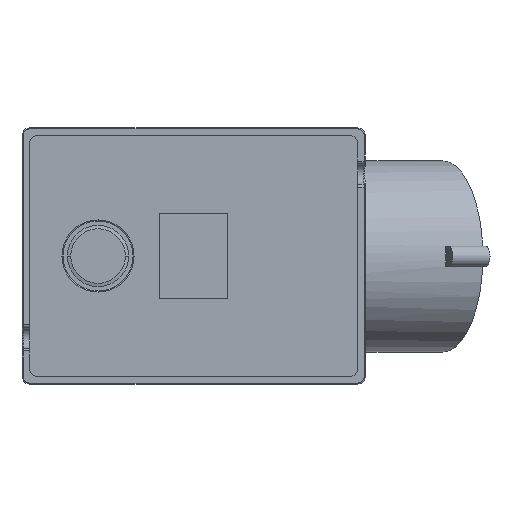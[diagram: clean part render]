
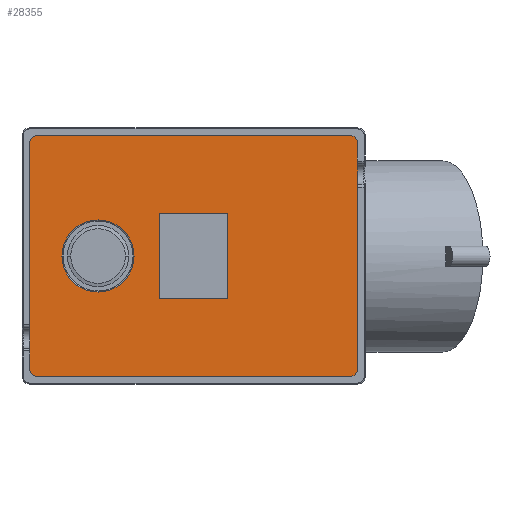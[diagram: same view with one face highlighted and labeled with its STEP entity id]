
A CAD part, top view. The second image highlights one B-rep face of the part: STEP entity #28355.
In plain terms, the highlighted planar face has unit normal (0, 0, 1).
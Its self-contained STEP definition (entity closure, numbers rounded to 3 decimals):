
#9537=DIRECTION('',(0.,1.,0.));
#9538=VECTOR('',#9537,6.);
#9539=CARTESIAN_POINT('',(-91.704,-27.,32.));
#9540=LINE('1030',#9539,#9538);
#9544=DIRECTION('',(0.,-1.,0.));
#9545=VECTOR('',#9544,54.25);
#9546=CARTESIAN_POINT('',(-91.7,33.25,32.));
#9547=LINE('1046',#9546,#9545);
#9551=CARTESIAN_POINT('',(-89.7,33.25,32.));
#9552=DIRECTION('',(0.,0.,1.));
#9553=DIRECTION('',(0.,1.,0.));
#9554=AXIS2_PLACEMENT_3D('',#9551,#9552,#9553);
#9559=DIRECTION('',(-1.,0.,0.));
#9560=VECTOR('',#9559,92.);
#9561=CARTESIAN_POINT('',(2.3,35.25,32.));
#9562=LINE('622',#9561,#9560);
#9566=CARTESIAN_POINT('',(2.3,33.25,32.));
#9567=DIRECTION('',(0.,0.,1.));
#9568=DIRECTION('',(1.,0.,0.));
#9569=AXIS2_PLACEMENT_3D('',#9566,#9567,#9568);
#9574=DIRECTION('',(-0.001,1.,0.));
#9575=VECTOR('',#9574,6.25);
#9576=CARTESIAN_POINT('',(4.304,27.,32.));
#9577=LINE('1025',#9576,#9575);
#9581=DIRECTION('',(0.,-1.,0.));
#9582=VECTOR('',#9581,6.);
#9583=CARTESIAN_POINT('',(4.304,27.,32.));
#9584=LINE('1024',#9583,#9582);
#9588=DIRECTION('',(0.,1.,0.));
#9589=VECTOR('',#9588,54.25);
#9590=CARTESIAN_POINT('',(4.3,-33.25,32.));
#9591=LINE('1047',#9590,#9589);
#9595=CARTESIAN_POINT('',(2.3,-33.25,32.));
#9596=DIRECTION('',(0.,0.,1.));
#9597=DIRECTION('',(0.,-1.,0.));
#9598=AXIS2_PLACEMENT_3D('',#9595,#9596,#9597);
#9603=DIRECTION('',(1.,0.,0.));
#9604=VECTOR('',#9603,92.);
#9605=CARTESIAN_POINT('',(-89.7,-35.25,32.));
#9606=LINE('619',#9605,#9604);
#9610=CARTESIAN_POINT('',(-89.7,-33.25,32.));
#9611=DIRECTION('',(0.,0.,1.));
#9612=DIRECTION('',(-1.,0.,0.));
#9613=AXIS2_PLACEMENT_3D('',#9610,#9611,#9612);
#9618=DIRECTION('',(0.001,-1.,0.));
#9619=VECTOR('',#9618,6.25);
#9620=CARTESIAN_POINT('',(-91.704,-27.,32.));
#9621=LINE('1031',#9620,#9619);
#9625=DIRECTION('',(-1.,0.,0.));
#9626=VECTOR('',#9625,20.);
#9627=CARTESIAN_POINT('',(-33.7,12.5,32.));
#9628=LINE('645',#9627,#9626);
#9632=DIRECTION('',(0.,-1.,0.));
#9633=VECTOR('',#9632,25.);
#9634=CARTESIAN_POINT('',(-53.7,12.5,32.));
#9635=LINE('646',#9634,#9633);
#9639=DIRECTION('',(1.,0.,0.));
#9640=VECTOR('',#9639,20.);
#9641=CARTESIAN_POINT('',(-53.7,-12.5,32.));
#9642=LINE('647',#9641,#9640);
#9646=DIRECTION('',(0.,1.,0.));
#9647=VECTOR('',#9646,25.);
#9648=CARTESIAN_POINT('',(-33.7,-12.5,32.));
#9649=LINE('648',#9648,#9647);
#9653=CARTESIAN_POINT('',(-71.7,0.,32.));
#9654=DIRECTION('',(0.,0.,-1.));
#9655=DIRECTION('',(-1.,0.,0.));
#9656=AXIS2_PLACEMENT_3D('',#9653,#9654,#9655);
#9661=CARTESIAN_POINT('',(-71.7,0.,32.));
#9662=DIRECTION('',(0.,0.,-1.));
#9663=DIRECTION('',(1.,0.,0.));
#9664=AXIS2_PLACEMENT_3D('',#9661,#9662,#9663);
#13863=CARTESIAN_POINT('',(-91.7,-33.25,32.));
#13864=CARTESIAN_POINT('',(-89.7,-35.25,32.));
#13865=VERTEX_POINT('',#13863);
#13866=VERTEX_POINT('',#13864);
#13867=CARTESIAN_POINT('',(2.3,-35.25,32.));
#13868=VERTEX_POINT('',#13867);
#13869=CARTESIAN_POINT('',(4.3,-33.25,32.));
#13870=VERTEX_POINT('',#13869);
#13871=CARTESIAN_POINT('',(4.3,33.25,32.));
#13872=CARTESIAN_POINT('',(2.3,35.25,32.));
#13873=VERTEX_POINT('',#13871);
#13874=VERTEX_POINT('',#13872);
#13875=CARTESIAN_POINT('',(-89.7,35.25,32.));
#13876=VERTEX_POINT('',#13875);
#13877=CARTESIAN_POINT('',(-91.7,33.25,32.));
#13878=VERTEX_POINT('',#13877);
#13915=CARTESIAN_POINT('',(-33.7,12.5,32.));
#13916=CARTESIAN_POINT('',(-53.7,12.5,32.));
#13917=VERTEX_POINT('',#13915);
#13918=VERTEX_POINT('',#13916);
#13919=CARTESIAN_POINT('',(-53.7,-12.5,32.));
#13920=VERTEX_POINT('',#13919);
#13921=CARTESIAN_POINT('',(-33.7,-12.5,32.));
#13922=VERTEX_POINT('',#13921);
#13959=CARTESIAN_POINT('',(-82.259,0.,32.));
#13960=CARTESIAN_POINT('',(-61.141,0.,32.));
#13961=VERTEX_POINT('',#13959);
#13962=VERTEX_POINT('',#13960);
#14296=CARTESIAN_POINT('',(4.304,27.,32.));
#14297=CARTESIAN_POINT('',(4.304,21.,32.));
#14298=VERTEX_POINT('',#14296);
#14299=VERTEX_POINT('',#14297);
#14300=CARTESIAN_POINT('',(-91.704,-27.,32.));
#14301=CARTESIAN_POINT('',(-91.704,-21.,32.));
#14302=VERTEX_POINT('',#14300);
#14303=VERTEX_POINT('',#14301);
#28314=CARTESIAN_POINT('',(-43.7,0.,32.));
#28315=DIRECTION('',(0.,0.,1.));
#28316=DIRECTION('',(0.,1.,0.));
#28317=AXIS2_PLACEMENT_3D('',#28314,#28315,#28316);
#28318=PLANE('30',#28317);
#28320=ORIENTED_EDGE('1030',*,*,#28319,.T.);
#28322=ORIENTED_EDGE('1046',*,*,#28321,.F.);
#28324=ORIENTED_EDGE('623',*,*,#28323,.F.);
#28326=ORIENTED_EDGE('622',*,*,#28325,.F.);
#28328=ORIENTED_EDGE('621',*,*,#28327,.F.);
#28330=ORIENTED_EDGE('1025',*,*,#28329,.F.);
#28331=ORIENTED_EDGE('1024',*,*,#28292,.T.);
#28332=ORIENTED_EDGE('1047',*,*,#15614,.F.);
#28333=ORIENTED_EDGE('620',*,*,#15641,.F.);
#28334=ORIENTED_EDGE('619',*,*,#15667,.F.);
#28335=ORIENTED_EDGE('618',*,*,#15693,.F.);
#28336=ORIENTED_EDGE('1031',*,*,#15720,.F.);
#28337=EDGE_LOOP('30',(#28320,#28322,#28324,#28326,#28328,#28330,#28331,#28332,
#28333,#28334,#28335,#28336));
#28338=FACE_OUTER_BOUND('30',#28337,.F.);
#28340=ORIENTED_EDGE('645',*,*,#28339,.T.);
#28342=ORIENTED_EDGE('646',*,*,#28341,.T.);
#28344=ORIENTED_EDGE('647',*,*,#28343,.T.);
#28346=ORIENTED_EDGE('648',*,*,#28345,.T.);
#28347=EDGE_LOOP('30',(#28340,#28342,#28344,#28346));
#28348=FACE_BOUND('30',#28347,.F.);
#28350=ORIENTED_EDGE('672',*,*,#28349,.F.);
#28352=ORIENTED_EDGE('674',*,*,#28351,.F.);
#28353=EDGE_LOOP('30',(#28350,#28352));
#28354=FACE_BOUND('30',#28353,.F.);
#9555=CIRCLE('623',#9554,2.);
#9570=CIRCLE('621',#9569,2.);
#9599=CIRCLE('620',#9598,2.);
#9614=CIRCLE('618',#9613,2.);
#9657=CIRCLE('672',#9656,10.559);
#9665=CIRCLE('674',#9664,10.559);
#15614=EDGE_CURVE('1047',#13870,#14299,#9591,.T.);
#15641=EDGE_CURVE('620',#13868,#13870,#9599,.T.);
#15667=EDGE_CURVE('619',#13866,#13868,#9606,.T.);
#15693=EDGE_CURVE('618',#13865,#13866,#9614,.T.);
#15720=EDGE_CURVE('1031',#14302,#13865,#9621,.T.);
#28292=EDGE_CURVE('1024',#14298,#14299,#9584,.T.);
#28319=EDGE_CURVE('1030',#14302,#14303,#9540,.T.);
#28321=EDGE_CURVE('1046',#13878,#14303,#9547,.T.);
#28323=EDGE_CURVE('623',#13876,#13878,#9555,.T.);
#28325=EDGE_CURVE('622',#13874,#13876,#9562,.T.);
#28327=EDGE_CURVE('621',#13873,#13874,#9570,.T.);
#28329=EDGE_CURVE('1025',#14298,#13873,#9577,.T.);
#28339=EDGE_CURVE('645',#13917,#13918,#9628,.T.);
#28341=EDGE_CURVE('646',#13918,#13920,#9635,.T.);
#28343=EDGE_CURVE('647',#13920,#13922,#9642,.T.);
#28345=EDGE_CURVE('648',#13922,#13917,#9649,.T.);
#28349=EDGE_CURVE('672',#13961,#13962,#9657,.T.);
#28351=EDGE_CURVE('674',#13962,#13961,#9665,.T.);
#28355=ADVANCED_FACE('30',(#28338,#28348,#28354),#28318,.T.);
